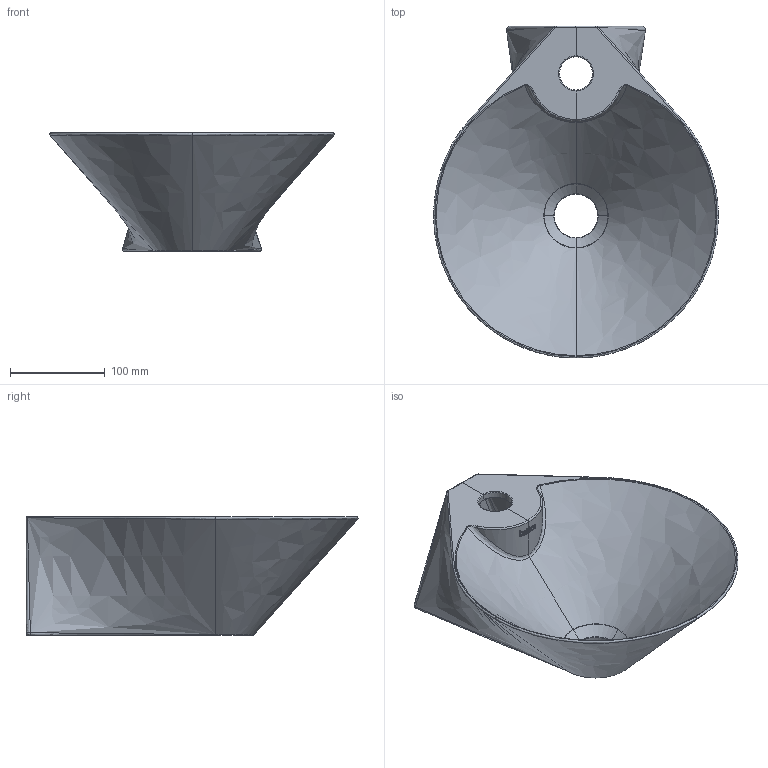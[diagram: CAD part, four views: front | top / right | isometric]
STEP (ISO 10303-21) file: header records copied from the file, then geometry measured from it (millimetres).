
FILE_DESCRIPTION(/* description */ (''),/* implementation_level */ '2;1');
FILE_NAME(/* name */ '4935_NAVIA',/* time_stamp */ '2025-04-01T12:18:07+02:00',/* author */ (''),/* organization */ (''),/* preprocessor_version */ 'ST-DEVELOPER v19.2',/* originating_system */ 'Rhino 8.17',/* authorisation */ '');
FILE_SCHEMA (('CONFIG_CONTROL_DESIGN'));
Length unit declared in the file: millimetre
Products named in the file (1): Document
Bounding box: 300.05 x 350.02 x 125 mm (x, y, z)
Volume: 1540251.2 mm3; surface area: 295779.6 mm2
Topology: 7 solids, 7 shells, 204 faces, 477 edges, 283 vertices
Faces by surface type: bspline 111, plane 51, cylinder 42
Entity records: 16118 total; most frequent: CARTESIAN_POINT 12642, ORIENTED_EDGE 954, EDGE_CURVE 477, DIRECTION 298, VERTEX_POINT 283, B_SPLINE_CURVE_WITH_KNOTS 220, EDGE_LOOP 214, ADVANCED_FACE 204
